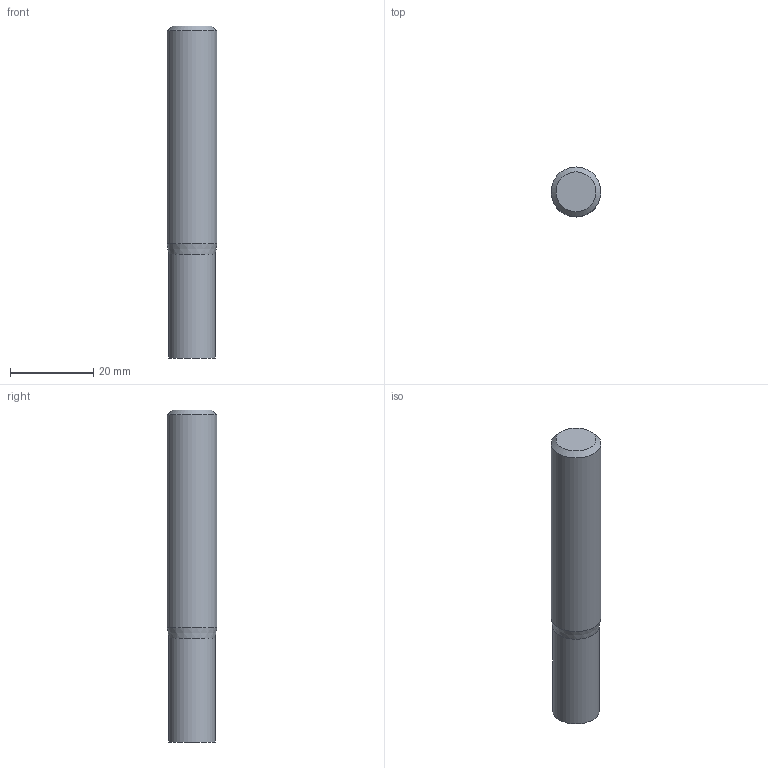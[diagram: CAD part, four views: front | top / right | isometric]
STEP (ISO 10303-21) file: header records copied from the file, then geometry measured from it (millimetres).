
FILE_DESCRIPTION((''),'2;1');
FILE_NAME('C:\Users\nsx150\AppData\Local\Temp\Mastercam 2021\98T1Q6BTT1\TEMP.step','2021-10-21T14:50:22',(''),(''),'STEP Write','Mastercam 2021 ... CNC Software, Inc.','');
FILE_SCHEMA(('AUTOMOTIVE_DESIGN'));
Length unit declared in the file: millimetre
Products named in the file (1): None
Bounding box: 12 x 12 x 80 mm (x, y, z)
Volume: 8639.4 mm3; surface area: 3331.4 mm2
Topology: 2 solids, 2 shells, 8 faces, 10 edges, 6 vertices
Faces by surface type: plane 4, cylinder 2, cone 2
Full cylindrical faces by diameter (mm): 11.2 x1, 12 x1
Entity records: 190 total; most frequent: DIRECTION 32, CARTESIAN_POINT 22, AXIS2_PLACEMENT_3D 16, ORIENTED_EDGE 12, EDGE_LOOP 12, STYLED_ITEM 11, ADVANCED_FACE 8, VERTEX_POINT 6
